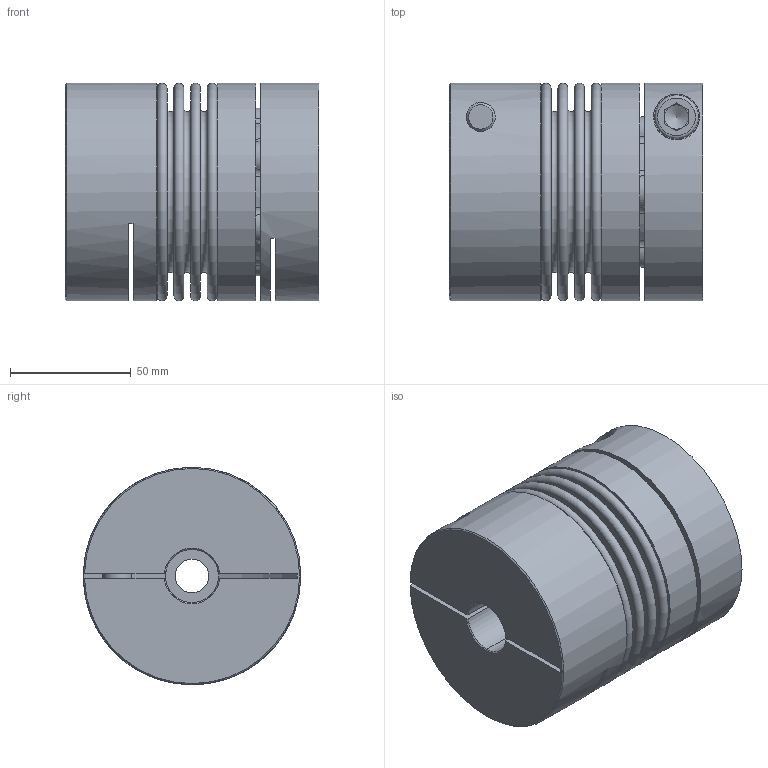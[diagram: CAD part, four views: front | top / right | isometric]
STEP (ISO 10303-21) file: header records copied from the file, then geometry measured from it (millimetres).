
FILE_DESCRIPTION( ( 'Unknown' ), '1' );
FILE_NAME( 'C:/Users/skarpstein/Desktop/KB4P/KB4P/KB4P-200-105.stp', 'Unknown', ( 'Unknown' ), ( 'Unknown' ), 'PSStep 16.0.42', 'Unknown', ' ' );
FILE_SCHEMA( ( 'AUTOMOTIVE_DESIGN { 1 0 10303 214 1 1 1 1 }' ) );
Length unit declared in the file: millimetre
Products named in the file (6): Assem1; BK200_Standard_0; KN200_Standard_2; Socket Head Cap Screw_DIN_DIN 912 M12 x 35 --- 35N_2; Stecknabe KB4P-200; Balgaufnahme KB4P-200
Assembly tree (6 placements, depth 2):
  Assem1
    BK200_Standard_0
    KN200_Standard_2
    Socket Head Cap Screw_DIN_DIN 912 M12 x 35 --- 35N_2  x2
    Stecknabe KB4P-200
    Balgaufnahme KB4P-200
Bounding box: 104.75 x 90 x 90 mm (x, y, z)
Volume: 473692.9 mm3; surface area: 144075.2 mm2
Topology: 6 solids, 6 shells, 173 faces, 407 edges, 265 vertices
Faces by surface type: plane 69, cone 56, cylinder 26, torus 22
Full cylindrical faces by diameter (mm): 10.106 x1, 12 x3, 12.5 x2, 14 x1, 18 x2, 19 x2, 22 x1, 79.2 x2, 80.4 x2, 90 x3
Entity records: 5850 total; most frequent: CARTESIAN_POINT 1075, DIRECTION 796, ORIENTED_EDGE 612, AXIS2_PLACEMENT_3D 346, EDGE_CURVE 306, VERTEX_POINT 233, EDGE_LOOP 224, CIRCLE 189
